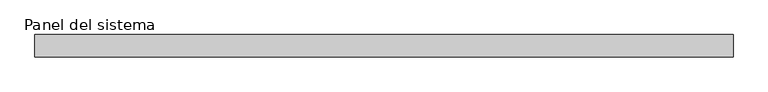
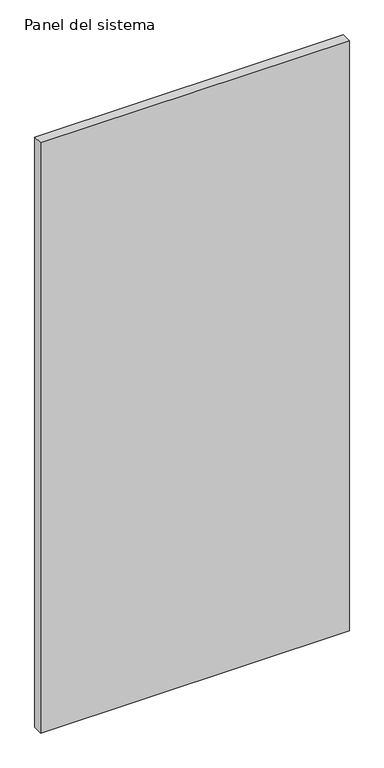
"""IFC4 building model written with IfcOpenShell, lengths in millimetres: plate geometry, Panel del sistema : HIANSA - CHAPA PERFILADA CUBIERTA - MT32F Vert."""

from ifc_helpers import new_model, si_unit, origin, origin_with_axes, place, context, project, spatial, polyline, outline, extrude, source, transform, mapped, element, save


def panel_del_sistema_2f02c7ae(model_context):
    return source(origin(), model_context, "Body", "SweptSolid", [
        extrude(outline(polyline([(500.0000002, -32.0), (-500.0000002, -32.0), (-500.0000002, 0.0), (500.0000002, 0.0), (500.0000002, -32.0)])), origin_with_axes(), (0.0, 0.0, 1.0), 2020.0),
    ])


if __name__ == "__main__":
    model = new_model("IFC4")
    model_context = context("Model", 3, world=origin())
    ifc_project = project(units=[si_unit("LENGTHUNIT", "METRE", prefix="MILLI")], contexts=[model_context])
    site = spatial("IfcSite", under=ifc_project)
    building = spatial("IfcBuilding", under=site)
    placement = place(None, origin())
    panel_del_sistema_shape = panel_del_sistema_2f02c7ae(model_context)
    element("IfcPlate", 1, ObjectType="Panel del sistema : HIANSA - CHAPA PERFILADA CUBIERTA - MT32F Vert", at=placement, inside=building, context=model_context, shape_type="MappedRepresentation", body=[
        mapped(panel_del_sistema_shape, transform((0.0, 0.0, 0.0), x_axis=(1.0, 0.0, 0.0), y_axis=(0.0, 1.0, 0.0), z_axis=(0.0, 0.0, 1.0))),
    ])
    save(model, "model.ifc")
